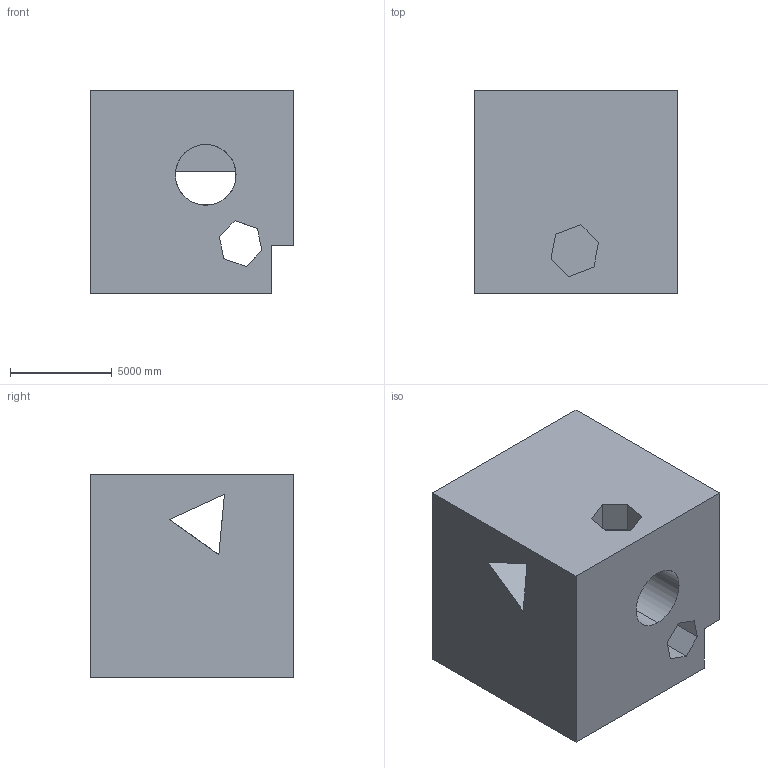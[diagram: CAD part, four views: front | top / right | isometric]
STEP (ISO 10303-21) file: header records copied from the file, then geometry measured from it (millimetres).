
FILE_DESCRIPTION (( 'STEP AP203' ), '1' );
FILE_NAME ('1652.STEP', '2022-08-25T15:21:41', ( 'user' ), ( '' ), 'SwSTEP 2.0', 'SolidWorks 2021', '' );
FILE_SCHEMA (( 'CONFIG_CONTROL_DESIGN' ));
Length unit declared in the file: centimetre
Products named in the file (1): 1652
Bounding box: 10000 x 10000 x 10000 mm (x, y, z)
Volume: 789469361425.3 mm3; surface area: 811052334.8 mm2
Topology: 1 solids, 1 shells, 36 faces, 111 edges, 74 vertices
Faces by surface type: plane 30, cylinder 6
Entity records: 1643 total; most frequent: CARTESIAN_POINT 573, ORIENTED_EDGE 222, DIRECTION 187, EDGE_CURVE 111, LINE 87, VECTOR 87, VERTEX_POINT 74, AXIS2_PLACEMENT_3D 50
